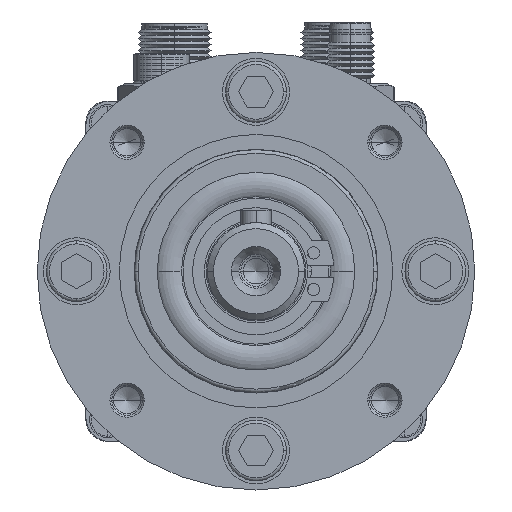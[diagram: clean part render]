
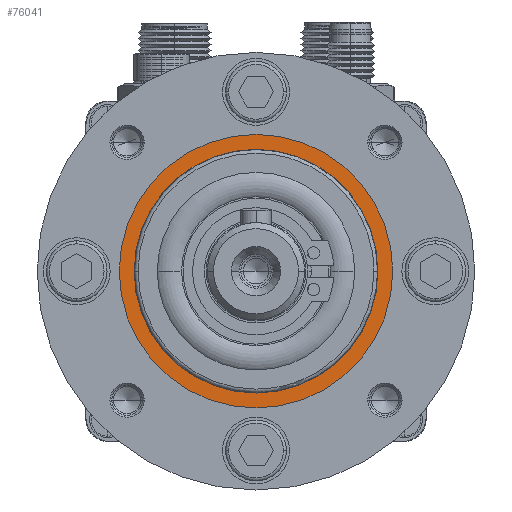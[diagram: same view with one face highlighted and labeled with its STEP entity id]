
A CAD part, left-side view. The second image highlights one B-rep face of the part: STEP entity #76041.
In plain terms, the highlighted planar face has unit normal (-1, 0, 0) as drawn and (1, 0, 0) by its records, which use the part's own axes.
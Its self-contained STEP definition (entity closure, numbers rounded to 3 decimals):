
#8266 = VERTEX_POINT ( 'NONE', #34849 ) ;
#12409 = AXIS2_PLACEMENT_3D ( 'NONE', #95965, #17053, #52435 ) ;
#15859 = DIRECTION ( 'NONE',  ( 0., 0., -1. ) ) ;
#17053 = DIRECTION ( 'NONE',  ( -1., 0., 0. ) ) ;
#22917 = EDGE_LOOP ( 'NONE', ( #91598, #85508 ) ) ;
#25550 = VERTEX_POINT ( 'NONE', #56317 ) ;
#25986 = EDGE_CURVE ( 'NONE', #8266, #66242, #72715, .T. ) ;
#27181 = EDGE_LOOP ( 'NONE', ( #86131, #52288 ) ) ;
#29319 = DIRECTION ( 'NONE',  ( -1., 0., 0. ) ) ;
#30793 = CARTESIAN_POINT ( 'NONE',  ( 38.6, 0., -20.05 ) ) ;
#30846 = EDGE_CURVE ( 'NONE', #66242, #8266, #110212, .T. ) ;
#34849 = CARTESIAN_POINT ( 'NONE',  ( 38.6, 0., 20.05 ) ) ;
#36399 = CIRCLE ( 'NONE', #12409, 22.5 ) ;
#41857 = AXIS2_PLACEMENT_3D ( 'NONE', #101737, #92873, #75140 ) ;
#44673 = AXIS2_PLACEMENT_3D ( 'NONE', #81659, #29319, #46614 ) ;
#46614 = DIRECTION ( 'NONE',  ( 0., 0., 1. ) ) ;
#52288 = ORIENTED_EDGE ( 'NONE', *, *, #91207, .F. ) ;
#52435 = DIRECTION ( 'NONE',  ( 0., 0., -1. ) ) ;
#56317 = CARTESIAN_POINT ( 'NONE',  ( 38.6, 0., -22.5 ) ) ;
#58750 = CIRCLE ( 'NONE', #41857, 22.5 ) ;
#66242 = VERTEX_POINT ( 'NONE', #30793 ) ;
#68499 = CARTESIAN_POINT ( 'NONE',  ( 38.6, 0., 0. ) ) ;
#72715 = CIRCLE ( 'NONE', #44673, 20.05 ) ;
#75140 = DIRECTION ( 'NONE',  ( 0., 0., -1. ) ) ;
#76041 = ADVANCED_FACE ( 'NONE', ( #81263, #85364 ), #80470, .T. ) ;
#80470 = PLANE ( 'NONE',  #98003 ) ;
#80854 = AXIS2_PLACEMENT_3D ( 'NONE', #82672, #91175, #100036 ) ;
#81263 = FACE_OUTER_BOUND ( 'NONE', #27181, .T. ) ;
#81659 = CARTESIAN_POINT ( 'NONE',  ( 38.6, 0., 0. ) ) ;
#82672 = CARTESIAN_POINT ( 'NONE',  ( 38.6, 0., 0. ) ) ;
#85364 = FACE_BOUND ( 'NONE', #22917, .T. ) ;
#85508 = ORIENTED_EDGE ( 'NONE', *, *, #30846, .T. ) ;
#86131 = ORIENTED_EDGE ( 'NONE', *, *, #106523, .F. ) ;
#91175 = DIRECTION ( 'NONE',  ( -1., 0., 0. ) ) ;
#91207 = EDGE_CURVE ( 'NONE', #112152, #25550, #58750, .T. ) ;
#91598 = ORIENTED_EDGE ( 'NONE', *, *, #25986, .T. ) ;
#92873 = DIRECTION ( 'NONE',  ( -1., 0., 0. ) ) ;
#95965 = CARTESIAN_POINT ( 'NONE',  ( 38.6, 0., 0. ) ) ;
#98003 = AXIS2_PLACEMENT_3D ( 'NONE', #68499, #107043, #15859 ) ;
#99138 = CARTESIAN_POINT ( 'NONE',  ( 38.6, 0., 22.5 ) ) ;
#100036 = DIRECTION ( 'NONE',  ( 0., 0., 1. ) ) ;
#101737 = CARTESIAN_POINT ( 'NONE',  ( 38.6, 0., 0. ) ) ;
#106523 = EDGE_CURVE ( 'NONE', #25550, #112152, #36399, .T. ) ;
#107043 = DIRECTION ( 'NONE',  ( 1., 0., 0. ) ) ;
#110212 = CIRCLE ( 'NONE', #80854, 20.05 ) ;
#112152 = VERTEX_POINT ( 'NONE', #99138 ) ;
